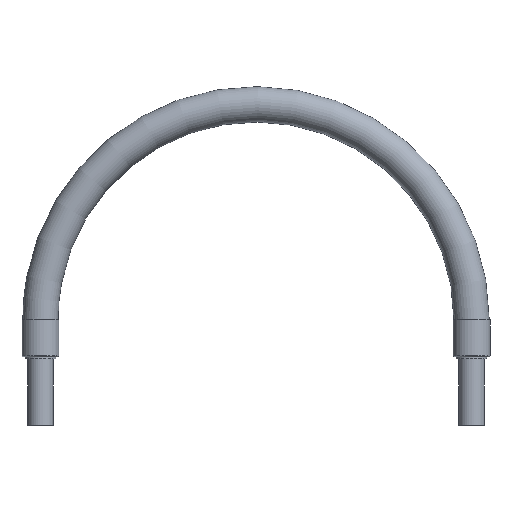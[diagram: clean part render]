
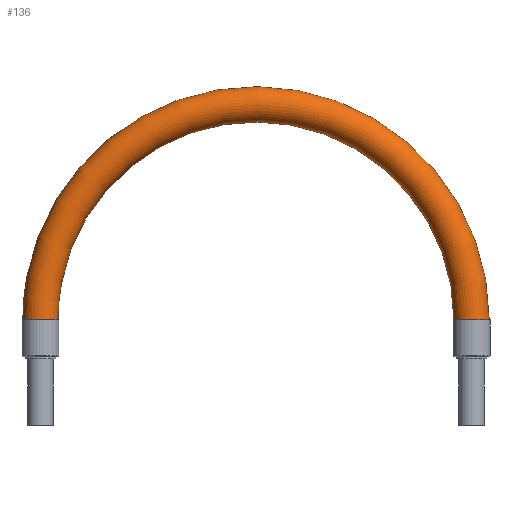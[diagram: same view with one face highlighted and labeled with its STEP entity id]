
A CAD part, top view. The second image highlights one B-rep face of the part: STEP entity #136.
In plain terms, the highlighted toroidal (fillet/blend) face has major radius 210.5 mm and minor radius 17.25 mm.
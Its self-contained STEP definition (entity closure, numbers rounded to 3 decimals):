
#136 = ADVANCED_FACE( '', ( #287, #288 ), #289, .T. );
#287 = FACE_OUTER_BOUND( '', #434, .T. );
#288 = FACE_OUTER_BOUND( '', #435, .T. );
#289 = TOROIDAL_SURFACE( '', #436, 210.5, 17.25 );
#434 = EDGE_LOOP( '', ( #625 ) );
#435 = EDGE_LOOP( '', ( #626 ) );
#436 = AXIS2_PLACEMENT_3D( '', #627, #628, #629 );
#625 = ORIENTED_EDGE( '', *, *, #673, .F. );
#626 = ORIENTED_EDGE( '', *, *, #691, .F. );
#627 = CARTESIAN_POINT( '', ( 0., 103., 0. ) );
#628 = DIRECTION( '', ( 0., 0., 1. ) );
#629 = DIRECTION( '', ( 0., 1., 0. ) );
#673 = EDGE_CURVE( '', #761, #761, #762, .T. );
#691 = EDGE_CURVE( '', #786, #786, #787, .T. );
#761 = VERTEX_POINT( '', #857 );
#762 = CIRCLE( '', #858, 17.25 );
#786 = VERTEX_POINT( '', #882 );
#787 = CIRCLE( '', #883, 17.25 );
#857 = CARTESIAN_POINT( '', ( 210.5, 103., 17.25 ) );
#858 = AXIS2_PLACEMENT_3D( '', #958, #959, #960 );
#882 = CARTESIAN_POINT( '', ( -210.5, 103., 17.25 ) );
#883 = AXIS2_PLACEMENT_3D( '', #979, #980, #981 );
#958 = CARTESIAN_POINT( '', ( 210.5, 103., 0. ) );
#959 = DIRECTION( '', ( 0., -1., 0. ) );
#960 = DIRECTION( '', ( 0., 0., 1. ) );
#979 = CARTESIAN_POINT( '', ( -210.5, 103., 0. ) );
#980 = DIRECTION( '', ( 0., -1., 0. ) );
#981 = DIRECTION( '', ( 0., 0., 1. ) );
